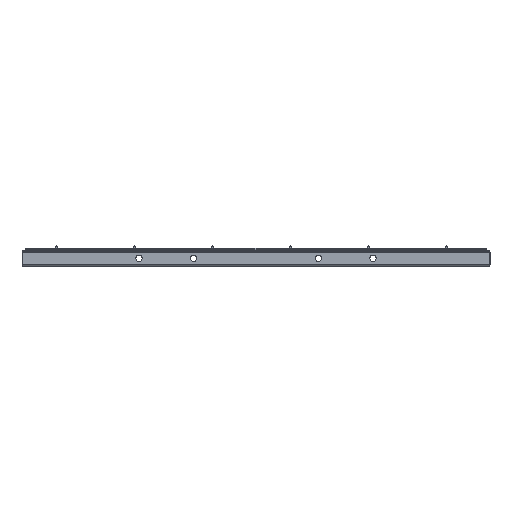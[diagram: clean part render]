
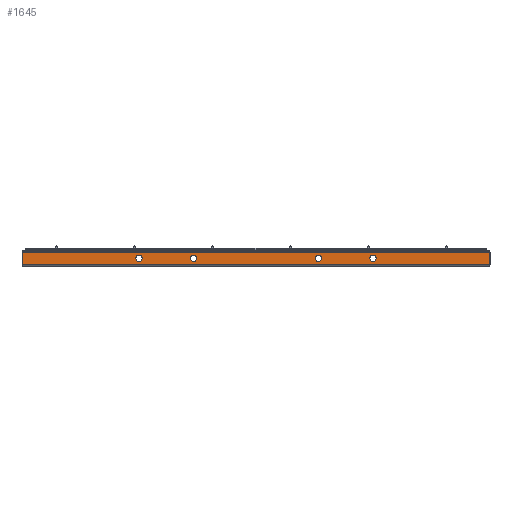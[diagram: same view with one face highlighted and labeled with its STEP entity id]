
A CAD part, left-side view. The second image highlights one B-rep face of the part: STEP entity #1645.
In plain terms, the highlighted planar face has unit normal (-1, 0, 0).
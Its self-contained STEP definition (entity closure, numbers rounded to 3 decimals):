
#202 = ORIENTED_EDGE ( 'NONE', *, *, #3918, .F. ) ;
#239 = CARTESIAN_POINT ( 'NONE',  ( -400., 300., -8. ) ) ;
#260 = ORIENTED_EDGE ( 'NONE', *, *, #6390, .T. ) ;
#354 = AXIS2_PLACEMENT_3D ( 'NONE', #2792, #413, #5119 ) ;
#398 = FACE_BOUND ( 'NONE', #6288, .T. ) ;
#413 = DIRECTION ( 'NONE',  ( 1., 0., 0. ) ) ;
#441 = CARTESIAN_POINT ( 'NONE',  ( -400., -300., -8. ) ) ;
#487 = EDGE_CURVE ( 'NONE', #799, #5884, #2734, .T. ) ;
#522 = AXIS2_PLACEMENT_3D ( 'NONE', #4486, #5605, #6844 ) ;
#644 = AXIS2_PLACEMENT_3D ( 'NONE', #1240, #6934, #1965 ) ;
#741 = CARTESIAN_POINT ( 'NONE',  ( -400., -150., 0. ) ) ;
#799 = VERTEX_POINT ( 'NONE', #1486 ) ;
#885 = ORIENTED_EDGE ( 'NONE', *, *, #3920, .T. ) ;
#1014 = DIRECTION ( 'NONE',  ( 1., 0., 0. ) ) ;
#1055 = LINE ( 'NONE', #2224, #3464 ) ;
#1061 = FACE_BOUND ( 'NONE', #2026, .T. ) ;
#1205 = ORIENTED_EDGE ( 'NONE', *, *, #487, .T. ) ;
#1240 = CARTESIAN_POINT ( 'NONE',  ( -400., 150., 0. ) ) ;
#1310 = EDGE_LOOP ( 'NONE', ( #7259, #5806 ) ) ;
#1454 = DIRECTION ( 'NONE',  ( 1., 0., 0. ) ) ;
#1486 = CARTESIAN_POINT ( 'NONE',  ( -400., 150., -4. ) ) ;
#1630 = ORIENTED_EDGE ( 'NONE', *, *, #6717, .T. ) ;
#1645 = ADVANCED_FACE ( 'NONE', ( #398, #1061, #2844, #4542, #3265 ), #5108, .F. ) ;
#1749 = ORIENTED_EDGE ( 'NONE', *, *, #2104, .T. ) ;
#1760 = VERTEX_POINT ( 'NONE', #5711 ) ;
#1794 = CARTESIAN_POINT ( 'NONE',  ( -400., -150., 4. ) ) ;
#1811 = AXIS2_PLACEMENT_3D ( 'NONE', #7387, #4509, #5037 ) ;
#1887 = CARTESIAN_POINT ( 'NONE',  ( -400., 80., -4. ) ) ;
#1901 = DIRECTION ( 'NONE',  ( 0., 0., -1. ) ) ;
#1965 = DIRECTION ( 'NONE',  ( 0., 0., -1. ) ) ;
#2026 = EDGE_LOOP ( 'NONE', ( #4917, #885 ) ) ;
#2085 = CIRCLE ( 'NONE', #3989, 4. ) ;
#2104 = EDGE_CURVE ( 'NONE', #5384, #5863, #1055, .T. ) ;
#2108 = DIRECTION ( 'NONE',  ( 0., 0., -1. ) ) ;
#2192 = CIRCLE ( 'NONE', #6252, 4. ) ;
#2224 = CARTESIAN_POINT ( 'NONE',  ( -400., -300., 8. ) ) ;
#2356 = CARTESIAN_POINT ( 'NONE',  ( -400., -150., -4. ) ) ;
#2396 = AXIS2_PLACEMENT_3D ( 'NONE', #4826, #1454, #3082 ) ;
#2414 = LINE ( 'NONE', #3558, #6484 ) ;
#2438 = CARTESIAN_POINT ( 'NONE',  ( -400., 80., 4. ) ) ;
#2552 = CIRCLE ( 'NONE', #522, 4. ) ;
#2559 = DIRECTION ( 'NONE',  ( 0., 0., 1. ) ) ;
#2642 = AXIS2_PLACEMENT_3D ( 'NONE', #4701, #7026, #1901 ) ;
#2672 = VECTOR ( 'NONE', #7392, 1000. ) ;
#2734 = CIRCLE ( 'NONE', #354, 4. ) ;
#2792 = CARTESIAN_POINT ( 'NONE',  ( -400., 150., 0. ) ) ;
#2844 = FACE_BOUND ( 'NONE', #1310, .T. ) ;
#2942 = ORIENTED_EDGE ( 'NONE', *, *, #6036, .T. ) ;
#2994 = CARTESIAN_POINT ( 'NONE',  ( -400., -150., 0. ) ) ;
#3041 = DIRECTION ( 'NONE',  ( 0., 1., 0. ) ) ;
#3082 = DIRECTION ( 'NONE',  ( 0., 0., -1. ) ) ;
#3241 = VERTEX_POINT ( 'NONE', #1887 ) ;
#3243 = CARTESIAN_POINT ( 'NONE',  ( -400., -80., 0. ) ) ;
#3265 = FACE_OUTER_BOUND ( 'NONE', #5202, .T. ) ;
#3292 = VERTEX_POINT ( 'NONE', #2356 ) ;
#3313 = VERTEX_POINT ( 'NONE', #5812 ) ;
#3443 = AXIS2_PLACEMENT_3D ( 'NONE', #3243, #1014, #2108 ) ;
#3464 = VECTOR ( 'NONE', #4534, 1000. ) ;
#3558 = CARTESIAN_POINT ( 'NONE',  ( -400., -300., -8. ) ) ;
#3644 = DIRECTION ( 'NONE',  ( 1., 0., 0. ) ) ;
#3918 = EDGE_CURVE ( 'NONE', #5384, #3313, #4550, .T. ) ;
#3920 = EDGE_CURVE ( 'NONE', #6374, #3241, #2552, .T. ) ;
#3989 = AXIS2_PLACEMENT_3D ( 'NONE', #2994, #7019, #6072 ) ;
#4396 = ORIENTED_EDGE ( 'NONE', *, *, #5602, .F. ) ;
#4486 = CARTESIAN_POINT ( 'NONE',  ( -400., 80., 0. ) ) ;
#4509 = DIRECTION ( 'NONE',  ( 1., 0., 0. ) ) ;
#4534 = DIRECTION ( 'NONE',  ( 0., 1., 0. ) ) ;
#4542 = FACE_BOUND ( 'NONE', #5534, .T. ) ;
#4550 = LINE ( 'NONE', #441, #2672 ) ;
#4604 = EDGE_CURVE ( 'NONE', #1760, #5617, #6937, .T. ) ;
#4701 = CARTESIAN_POINT ( 'NONE',  ( -400., -80., 0. ) ) ;
#4773 = ORIENTED_EDGE ( 'NONE', *, *, #7200, .F. ) ;
#4826 = CARTESIAN_POINT ( 'NONE',  ( -400., 80., 0. ) ) ;
#4917 = ORIENTED_EDGE ( 'NONE', *, *, #5115, .T. ) ;
#4926 = CARTESIAN_POINT ( 'NONE',  ( -400., 300., -8. ) ) ;
#5037 = DIRECTION ( 'NONE',  ( 0., 1., 0. ) ) ;
#5108 = PLANE ( 'NONE',  #1811 ) ;
#5115 = EDGE_CURVE ( 'NONE', #3241, #6374, #6713, .T. ) ;
#5119 = DIRECTION ( 'NONE',  ( 0., 0., -1. ) ) ;
#5191 = CARTESIAN_POINT ( 'NONE',  ( -400., -300., 8. ) ) ;
#5202 = EDGE_LOOP ( 'NONE', ( #4773, #4396, #202, #1749 ) ) ;
#5384 = VERTEX_POINT ( 'NONE', #5191 ) ;
#5455 = VECTOR ( 'NONE', #2559, 1000. ) ;
#5457 = CARTESIAN_POINT ( 'NONE',  ( -400., -80., -4. ) ) ;
#5534 = EDGE_LOOP ( 'NONE', ( #1630, #2942 ) ) ;
#5602 = EDGE_CURVE ( 'NONE', #3313, #6929, #2414, .T. ) ;
#5605 = DIRECTION ( 'NONE',  ( 1., 0., 0. ) ) ;
#5611 = EDGE_CURVE ( 'NONE', #5617, #1760, #5762, .T. ) ;
#5617 = VERTEX_POINT ( 'NONE', #5457 ) ;
#5711 = CARTESIAN_POINT ( 'NONE',  ( -400., -80., 4. ) ) ;
#5762 = CIRCLE ( 'NONE', #2642, 4. ) ;
#5785 = CARTESIAN_POINT ( 'NONE',  ( -400., 150., 4. ) ) ;
#5806 = ORIENTED_EDGE ( 'NONE', *, *, #4604, .T. ) ;
#5812 = CARTESIAN_POINT ( 'NONE',  ( -400., -300., -8. ) ) ;
#5863 = VERTEX_POINT ( 'NONE', #6268 ) ;
#5884 = VERTEX_POINT ( 'NONE', #5785 ) ;
#5942 = DIRECTION ( 'NONE',  ( 0., 0., -1. ) ) ;
#6036 = EDGE_CURVE ( 'NONE', #6600, #3292, #2085, .T. ) ;
#6072 = DIRECTION ( 'NONE',  ( 0., 0., -1. ) ) ;
#6252 = AXIS2_PLACEMENT_3D ( 'NONE', #741, #3644, #5942 ) ;
#6268 = CARTESIAN_POINT ( 'NONE',  ( -400., 300., 8. ) ) ;
#6288 = EDGE_LOOP ( 'NONE', ( #1205, #260 ) ) ;
#6374 = VERTEX_POINT ( 'NONE', #2438 ) ;
#6390 = EDGE_CURVE ( 'NONE', #5884, #799, #6969, .T. ) ;
#6484 = VECTOR ( 'NONE', #3041, 1000. ) ;
#6504 = LINE ( 'NONE', #239, #5455 ) ;
#6600 = VERTEX_POINT ( 'NONE', #1794 ) ;
#6713 = CIRCLE ( 'NONE', #2396, 4. ) ;
#6717 = EDGE_CURVE ( 'NONE', #3292, #6600, #2192, .T. ) ;
#6844 = DIRECTION ( 'NONE',  ( 0., 0., -1. ) ) ;
#6929 = VERTEX_POINT ( 'NONE', #4926 ) ;
#6934 = DIRECTION ( 'NONE',  ( 1., 0., 0. ) ) ;
#6937 = CIRCLE ( 'NONE', #3443, 4. ) ;
#6969 = CIRCLE ( 'NONE', #644, 4. ) ;
#7019 = DIRECTION ( 'NONE',  ( 1., 0., 0. ) ) ;
#7026 = DIRECTION ( 'NONE',  ( 1., 0., 0. ) ) ;
#7200 = EDGE_CURVE ( 'NONE', #6929, #5863, #6504, .T. ) ;
#7259 = ORIENTED_EDGE ( 'NONE', *, *, #5611, .T. ) ;
#7387 = CARTESIAN_POINT ( 'NONE',  ( -400., -300., -8. ) ) ;
#7392 = DIRECTION ( 'NONE',  ( 0., 0., -1. ) ) ;
